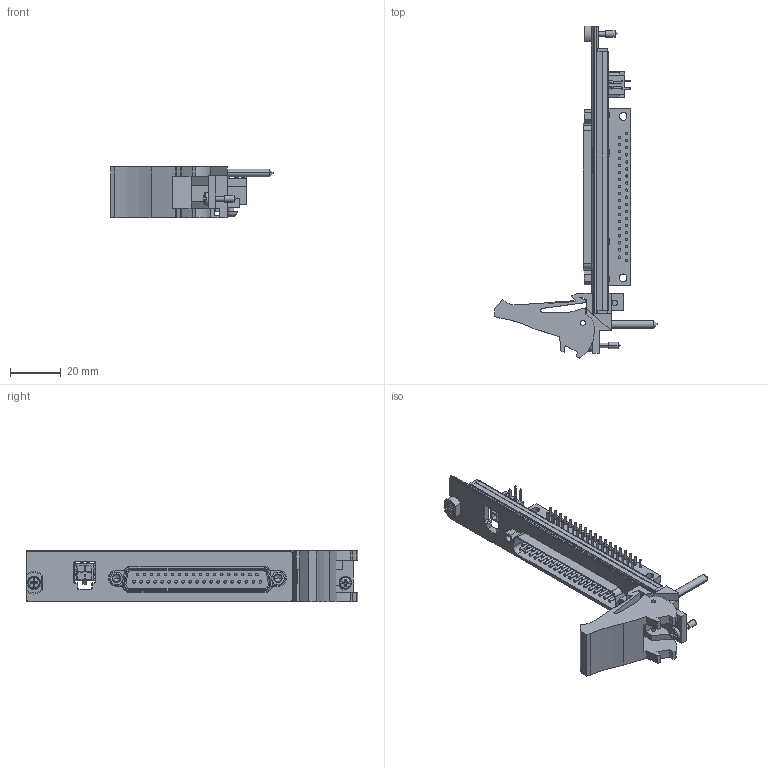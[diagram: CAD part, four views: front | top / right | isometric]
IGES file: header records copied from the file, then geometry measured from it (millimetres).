
Start section:  PTC IGES file: cu_pxi-272x.igs
Global section: file name: cu_pxi-272x.igs; native system: Pro/ENGINEER by Parametric Technology Corporation; preprocessor: 2010230; author: hugyokog; organization: Unknown; date: 20120813.130826; units: inch
Bounding box: 63.73 x 130.5 x 20.3 mm (x, y, z)
Surface area: 23681 mm2 (no closed solid volume)
Topology: 0 solids, 0 shells, 1130 faces, 5548 edges, 5534 vertices
Faces by surface type: bspline 714, revolution 416
